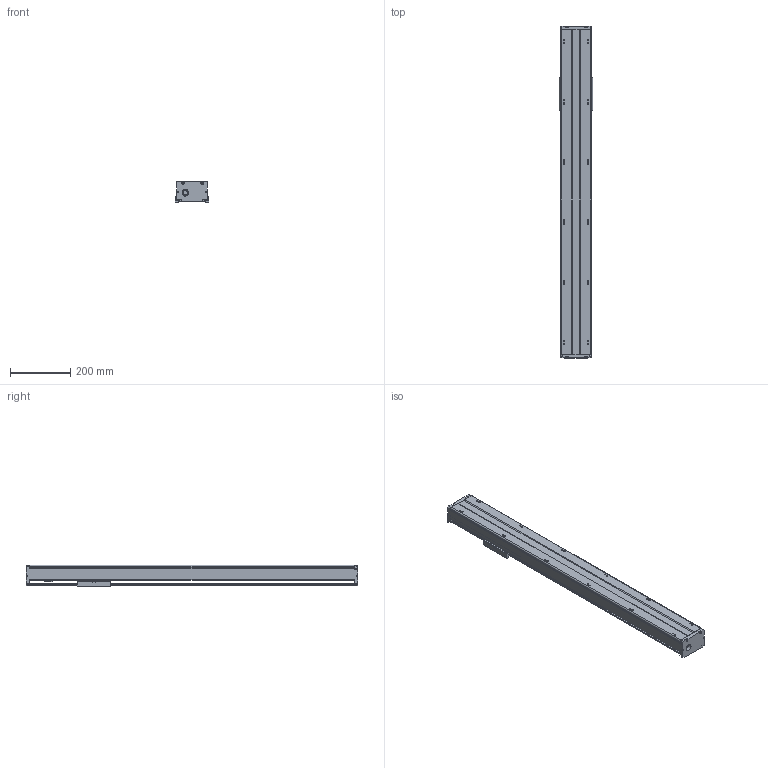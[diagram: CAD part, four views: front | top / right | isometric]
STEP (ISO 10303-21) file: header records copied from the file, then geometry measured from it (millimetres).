
FILE_DESCRIPTION(/* description */ (''),/* implementation_level */ '2;1');
FILE_NAME(/* name */ 'TKA100-850A1F0_asm1.stp',/* time_stamp */ '2017-02-20T16:25:17+08:00',/* author */ (''),/* organization */ (''),/* preprocessor_version */ 'ST-DEVELOPER v15',/* originating_system */ 'SIEMENS PLM Software NX 8.5',/* authorisation */ '');
FILE_SCHEMA (('AUTOMOTIVE_DESIGN { 1 0 10303 214 3 1 1 1 }'));
Length unit declared in the file: millimetre
Products named in the file (3): 200-02; 200-01; TKA100-850A1F0_asm1_stp
Assembly tree (2 placements, depth 2):
  TKA100-850A1F0_asm1_stp
    200-01
    200-02
Bounding box: 110 x 1104 x 71 mm (x, y, z)
Volume: 2269839.6 mm3; surface area: 753955.6 mm2
Topology: 2 solids, 8 shells, 695 faces, 1850 edges, 1209 vertices
Faces by surface type: cylinder 273, plane 259, cone 110, torus 27, bspline 26
Full cylindrical faces by diameter (mm): 2.5 x6, 2.6 x8, 3.3 x8, 3.4 x8, 3.8 x4, 4.2 x21, 4.3 x4, 4.5 x4, 5 x1, 5.5 x20, 6.6 x4, 8 x5, 9 x4, 10 x12, 11 x4, 12 x6, 12.05 x2, 15.3 x1, 15.4 x1, 16 x1, 17 x2, 18 x1, 22 x1, 24 x1, 28 x5, 30 x1
Entity records: 26048 total; most frequent: CARTESIAN_POINT 9856, DIRECTION 3307, ORIENTED_EDGE 3080, EDGE_CURVE 1540, AXIS2_PLACEMENT_3D 1327, VERTEX_POINT 1133, EDGE_LOOP 1018, ADVANCED_FACE 695
